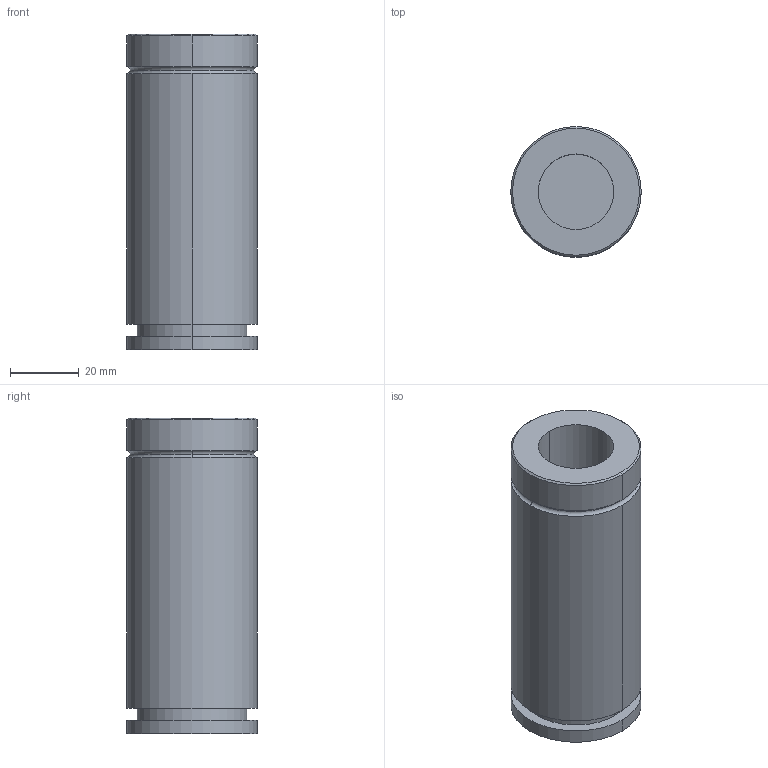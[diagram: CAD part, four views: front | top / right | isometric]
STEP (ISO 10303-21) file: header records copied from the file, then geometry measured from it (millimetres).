
FILE_DESCRIPTION(('FreeCAD Model'),'2;1');
FILE_NAME('Open CASCADE Shape Model','2024-11-12T15:45:15',('Author'),( ''),'Open CASCADE STEP processor 7.6','FreeCAD','Unknown');
FILE_SCHEMA(('AUTOMOTIVE_DESIGN { 1 0 10303 214 1 1 1 1 }'));
Length unit declared in the file: millimetre
Products named in the file (4): Part; Cilindro001; Cilindro; Cut
Assembly tree (3 placements, depth 2):
  Part
    Cilindro001
    Cilindro
    Cut
Bounding box: 38 x 38 x 92 mm (x, y, z)
Volume: 88038.2 mm3; surface area: 17829 mm2
Topology: 3 solids, 3 shells, 34 faces, 62 edges, 40 vertices
Faces by surface type: cylinder 16, plane 12, torus 4, cone 2
Full cylindrical faces by diameter (mm): 6 x4
Entity records: 951 total; most frequent: DIRECTION 182, CARTESIAN_POINT 140, ORIENTED_EDGE 124, AXIS2_PLACEMENT_3D 82, EDGE_CURVE 62, CIRCLE 44, FACE_BOUND 40, EDGE_LOOP 40
